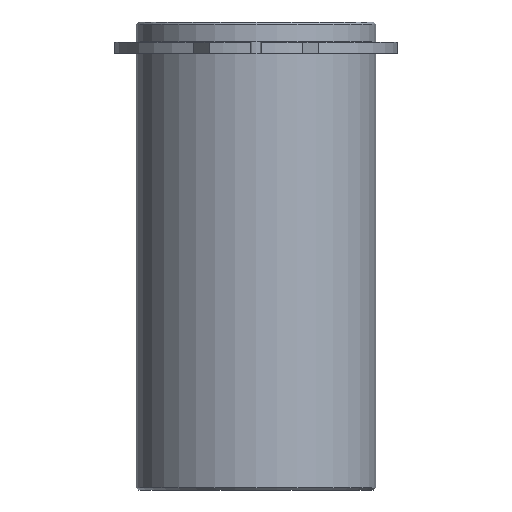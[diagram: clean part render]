
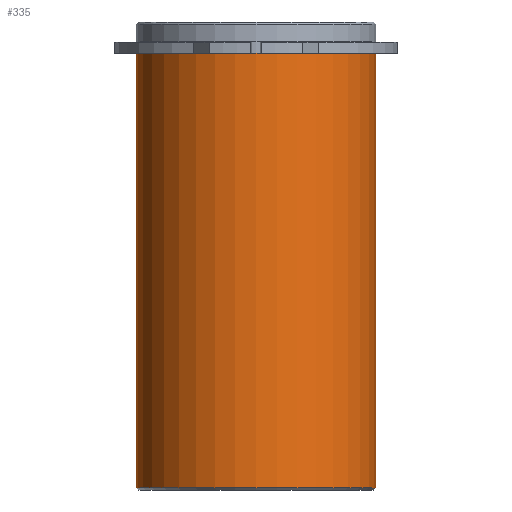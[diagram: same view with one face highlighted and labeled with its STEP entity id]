
A CAD part, front view. The second image highlights one B-rep face of the part: STEP entity #335.
In plain terms, the highlighted cylindrical face has radius 16.125 mm (diameter 32.25 mm), a partial arc.
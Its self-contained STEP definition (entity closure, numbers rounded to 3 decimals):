
#294=CARTESIAN_POINT('',(0.0,0.,-29.25));
#295=DIRECTION('',(0.0,0.,1.0));
#296=DIRECTION('',(1.0,0.0,0.0));
#297=AXIS2_PLACEMENT_3D('',#294,#295,#296);
#298=CYLINDRICAL_SURFACE('',#297,16.125);
#299=CARTESIAN_POINT('',(16.125,0.0,0.0));
#300=VERTEX_POINT('',#299);
#301=CARTESIAN_POINT('',(16.125,0.,-58.5));
#302=VERTEX_POINT('',#301);
#303=CARTESIAN_POINT('',(16.125,0.0,0.0));
#304=DIRECTION('',(0.0,0.0,-1.0));
#305=VECTOR('',#304,58.5);
#306=LINE('',#303,#305);
#307=EDGE_CURVE('',#300,#302,#306,.T.);
#308=ORIENTED_EDGE('',*,*,#307,.F.);
#309=CARTESIAN_POINT('',(-16.125,0.,0.));
#310=VERTEX_POINT('',#309);
#311=CARTESIAN_POINT('',(0.0,0.0,0.0));
#312=DIRECTION('',(0.0,0.0,1.0));
#313=DIRECTION('',(1.0,0.0,0.0));
#314=AXIS2_PLACEMENT_3D('',#311,#312,#313);
#315=CIRCLE('',#314,16.125);
#316=EDGE_CURVE('',#310,#300,#315,.T.);
#317=ORIENTED_EDGE('',*,*,#316,.F.);
#318=CARTESIAN_POINT('',(-16.125,0.,-58.5));
#319=VERTEX_POINT('',#318);
#320=CARTESIAN_POINT('',(-16.125,0.,0.));
#321=DIRECTION('',(0.0,0.0,-1.0));
#322=VECTOR('',#321,58.5);
#323=LINE('',#320,#322);
#324=EDGE_CURVE('',#310,#319,#323,.T.);
#325=ORIENTED_EDGE('',*,*,#324,.T.);
#326=CARTESIAN_POINT('',(0.0,0.,-58.5));
#327=DIRECTION('',(0.0,0.0,1.0));
#328=DIRECTION('',(1.0,0.0,0.0));
#329=AXIS2_PLACEMENT_3D('',#326,#327,#328);
#330=CIRCLE('',#329,16.125);
#331=EDGE_CURVE('',#319,#302,#330,.T.);
#332=ORIENTED_EDGE('',*,*,#331,.T.);
#333=EDGE_LOOP('',(#308,#317,#325,#332));
#334=FACE_OUTER_BOUND('',#333,.T.);
#335=ADVANCED_FACE('',(#334),#298,.T.);
